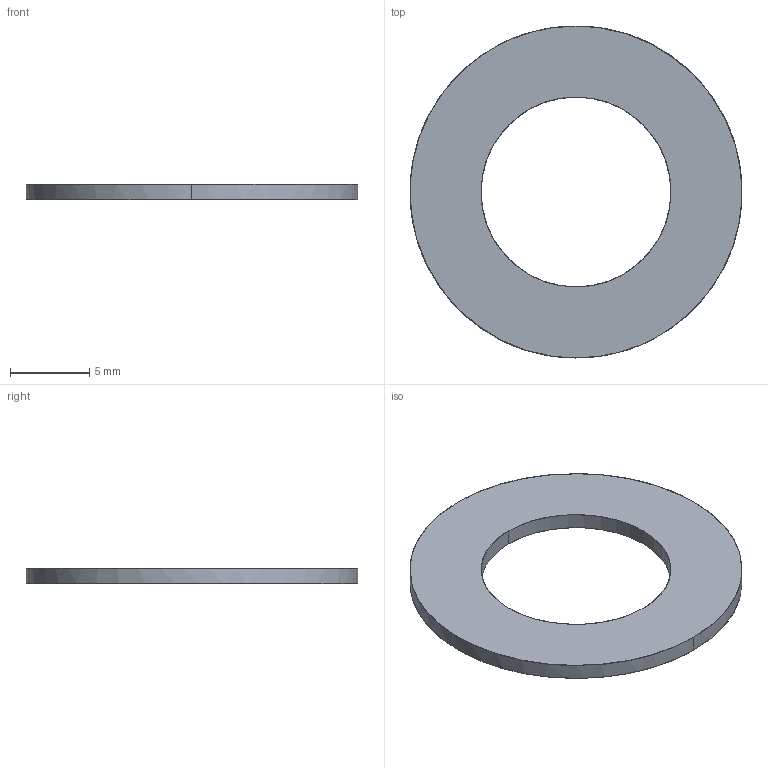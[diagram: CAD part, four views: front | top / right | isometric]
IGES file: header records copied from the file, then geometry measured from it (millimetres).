
Global section: file name: E:\UnigraphicsGraphicData\MISUMI_PRESS-PARTS\IGES\3d_sswa21-1.0_00814_r00.igs; native system: NX V5.0; preprocessor: UGS NX IGES V5.0; author: MISUMI; date: 20110105.163159; units: millimetre
Bounding box: 21 x 21 x 1 mm (x, y, z)
Surface area: 571.7 mm2 (no closed solid volume)
Topology: 0 solids, 0 shells, 6 faces, 48 edges, 48 vertices
Faces by surface type: bspline 6
